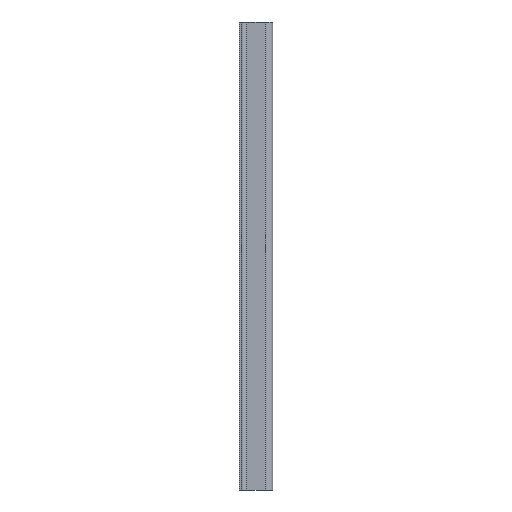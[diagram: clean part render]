
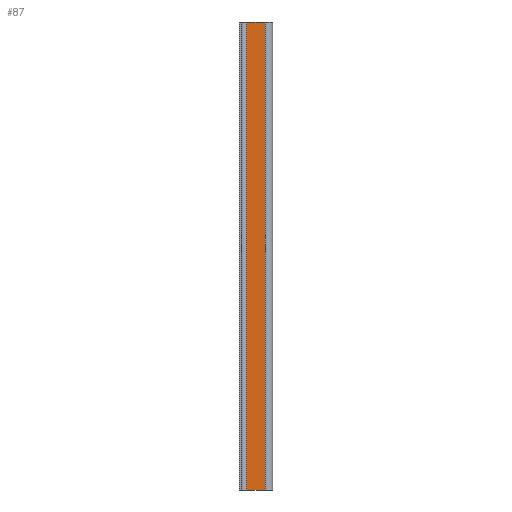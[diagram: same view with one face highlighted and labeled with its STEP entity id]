
A CAD part, left-side view. The second image highlights one B-rep face of the part: STEP entity #87.
In plain terms, the highlighted planar face has unit normal (-1, 0, 0).
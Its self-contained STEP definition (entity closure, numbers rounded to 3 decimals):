
#73 = VERTEX_POINT ( 'NONE', #1332 ) ;
#87 = ADVANCED_FACE ( 'NONE', ( #475 ), #150, .T. ) ;
#150 = PLANE ( 'NONE',  #1617 ) ;
#257 = EDGE_CURVE ( 'NONE', #73, #1221, #347, .T. ) ;
#299 = VECTOR ( 'NONE', #1819, 1000. ) ;
#347 = LINE ( 'NONE', #1378, #1636 ) ;
#475 = FACE_OUTER_BOUND ( 'NONE', #2276, .T. ) ;
#577 = DIRECTION ( 'NONE',  ( -1., 0., 0. ) ) ;
#777 = CARTESIAN_POINT ( 'NONE',  ( -13.1, 11.5, 0. ) ) ;
#825 = DIRECTION ( 'NONE',  ( 0., 0., -1. ) ) ;
#832 = EDGE_CURVE ( 'NONE', #1898, #73, #2493, .T. ) ;
#833 = VERTEX_POINT ( 'NONE', #1615 ) ;
#844 = CARTESIAN_POINT ( 'NONE',  ( -13.1, 0., 0. ) ) ;
#962 = ORIENTED_EDGE ( 'NONE', *, *, #1299, .F. ) ;
#964 = CARTESIAN_POINT ( 'NONE',  ( -13.1, 2.5, 225. ) ) ;
#1027 = DIRECTION ( 'NONE',  ( 0., 0., -1. ) ) ;
#1077 = LINE ( 'NONE', #844, #299 ) ;
#1221 = VERTEX_POINT ( 'NONE', #777 ) ;
#1299 = EDGE_CURVE ( 'NONE', #833, #1221, #1077, .T. ) ;
#1332 = CARTESIAN_POINT ( 'NONE',  ( -13.1, 11.5, 225. ) ) ;
#1378 = CARTESIAN_POINT ( 'NONE',  ( -13.1, 11.5, 225. ) ) ;
#1455 = VECTOR ( 'NONE', #1027, 1000. ) ;
#1615 = CARTESIAN_POINT ( 'NONE',  ( -13.1, 2.5, 0. ) ) ;
#1617 = AXIS2_PLACEMENT_3D ( 'NONE', #2160, #577, #2357 ) ;
#1636 = VECTOR ( 'NONE', #825, 1000. ) ;
#1819 = DIRECTION ( 'NONE',  ( 0., 1., 0. ) ) ;
#1834 = CARTESIAN_POINT ( 'NONE',  ( -13.1, 0., 225. ) ) ;
#1898 = VERTEX_POINT ( 'NONE', #2199 ) ;
#1930 = LINE ( 'NONE', #964, #1455 ) ;
#1996 = ORIENTED_EDGE ( 'NONE', *, *, #2063, .F. ) ;
#2063 = EDGE_CURVE ( 'NONE', #1898, #833, #1930, .T. ) ;
#2077 = ORIENTED_EDGE ( 'NONE', *, *, #257, .T. ) ;
#2159 = VECTOR ( 'NONE', #2230, 1000. ) ;
#2160 = CARTESIAN_POINT ( 'NONE',  ( -13.1, 0., 225. ) ) ;
#2199 = CARTESIAN_POINT ( 'NONE',  ( -13.1, 2.5, 225. ) ) ;
#2230 = DIRECTION ( 'NONE',  ( 0., 1., 0. ) ) ;
#2256 = ORIENTED_EDGE ( 'NONE', *, *, #832, .T. ) ;
#2276 = EDGE_LOOP ( 'NONE', ( #962, #1996, #2256, #2077 ) ) ;
#2357 = DIRECTION ( 'NONE',  ( 0., 0., 1. ) ) ;
#2493 = LINE ( 'NONE', #1834, #2159 ) ;
